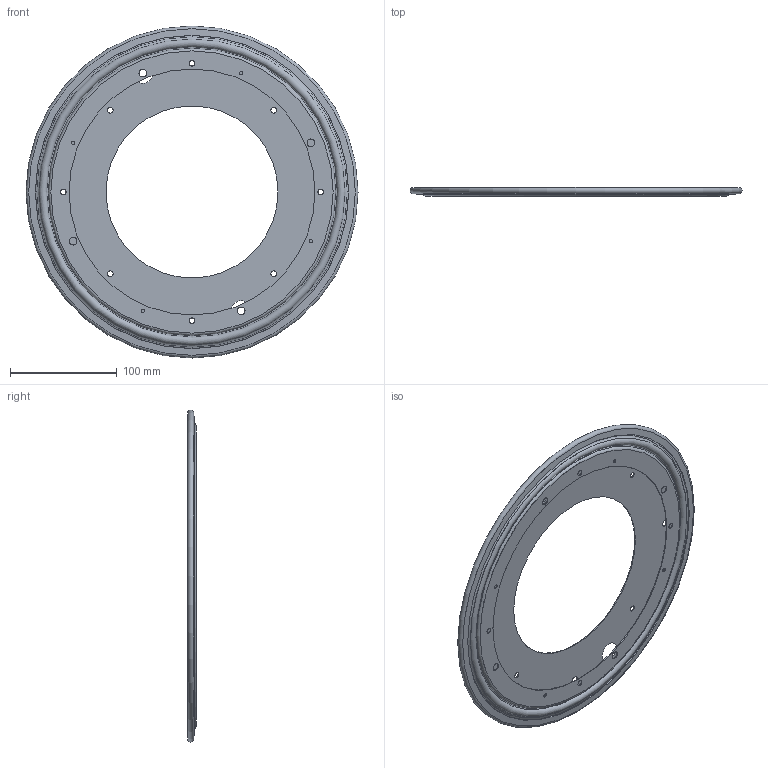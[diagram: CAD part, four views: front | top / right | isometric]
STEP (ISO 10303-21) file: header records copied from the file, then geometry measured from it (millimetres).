
FILE_DESCRIPTION(/* description */ (''),/* implementation_level */ '2;1');
FILE_NAME(/* name */ 'Z:\35-j-ito\製品モデル\IRL-300シリーズ\IRL-300\社外用モデル\IRL-300.stp',/* time_stamp */ '2022-04-11T13:06:14+09:00',/* author */ ('j-ito'),/* organization */ (''),/* preprocessor_version */ 'ST-DEVELOPER v18.1',/* originating_system */ 'Autodesk Inventor 2022',/* authorisation */ '');
FILE_SCHEMA (('AUTOMOTIVE_DESIGN { 1 0 10303 214 3 1 1 }'));
Length unit declared in the file: millimetre
Products named in the file (4): IRL-300; Part2; Part1; Part3
Assembly tree (3 placements, depth 2):
  IRL-300
    Part2
    Part1
    Part3
Bounding box: 310.35 x 7.95 x 310.35 mm (x, y, z)
Volume: 112254.8 mm3; surface area: 221381.2 mm2
Topology: 3 solids, 3 shells, 59 faces, 142 edges, 89 vertices
Faces by surface type: cylinder 24, torus 21, cone 8, plane 6
Full cylindrical faces by diameter (mm): 3.3 x4, 5.16 x8, 7.14 x8, 19.05 x2, 160.782 x1, 229.794 x1
Entity records: 2013 total; most frequent: DIRECTION 384, CARTESIAN_POINT 297, ORIENTED_EDGE 284, AXIS2_PLACEMENT_3D 176, EDGE_CURVE 142, CIRCLE 110, EDGE_LOOP 109, VERTEX_POINT 89
